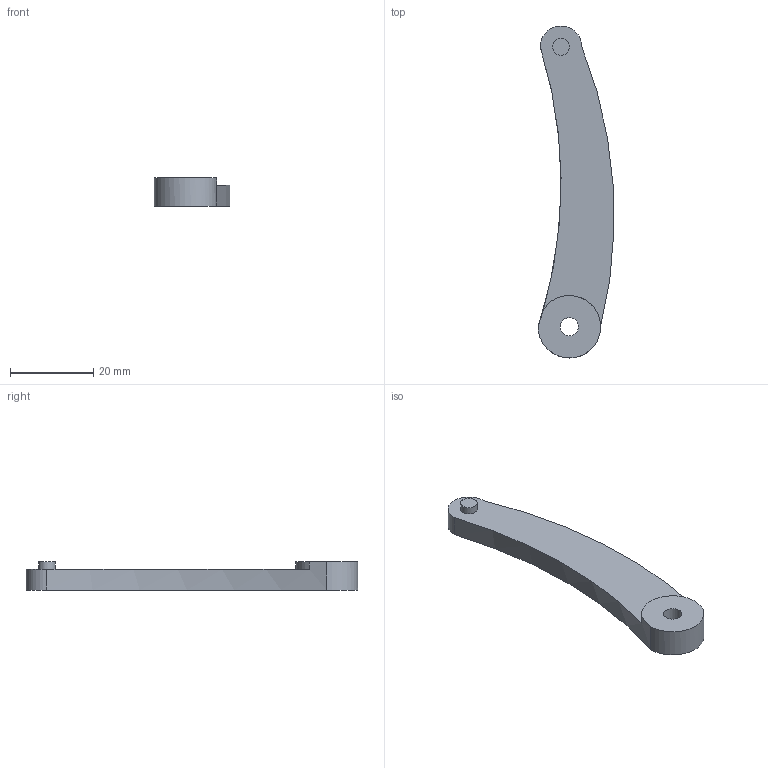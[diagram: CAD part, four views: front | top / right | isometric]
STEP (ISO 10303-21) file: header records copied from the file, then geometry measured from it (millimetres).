
FILE_DESCRIPTION(/* description */ ('STEP AP242 Edition 2','CAx-IF Rec.Pracs.---Representation and Presentation of Product Manufacturing Information (PMI)---4.0---2014-10-13','CAx-IF Rec.Pracs.---3D Tessellated Geometry---0.4---2014-09-14','2;1','CAx-IF Rec.Pracs.---User Defined Attributes---1.5---2016-08-15'),/* implementation_level */ '2;1');
FILE_NAME(/* name */ 'Part Studio 1 - arm_right',/* time_stamp */ '2026-04-19T16:25:01Z',/* author */ (''),/* organization */ (''),/* preprocessor_version */ 'ST-DEVELOPER v20',/* originating_system */ 'ONSHAPE BY PTC INC, 1.213',/* authorisation */ ' ');
FILE_SCHEMA (('AP242_MANAGED_MODEL_BASED_3D_ENGINEERING_MIM_LF { 1 0 10303 442 3 1 4 }'));
Length unit declared in the file: metre
Products named in the file (1): arm_right
Bounding box: 18.2 x 79.74 x 6.8 mm (x, y, z)
Volume: 5083.9 mm3; surface area: 2990.8 mm2
Topology: 1 solids, 1 shells, 10 faces, 21 edges, 14 vertices
Faces by surface type: cylinder 6, plane 4
Full cylindrical faces by diameter (mm): 4 x1, 4.4 x1
Entity records: 295 total; most frequent: DIRECTION 55, CARTESIAN_POINT 44, ORIENTED_EDGE 38, AXIS2_PLACEMENT_3D 25, EDGE_CURVE 19, EDGE_LOOP 15, FACE_BOUND 15, VERTEX_POINT 14
